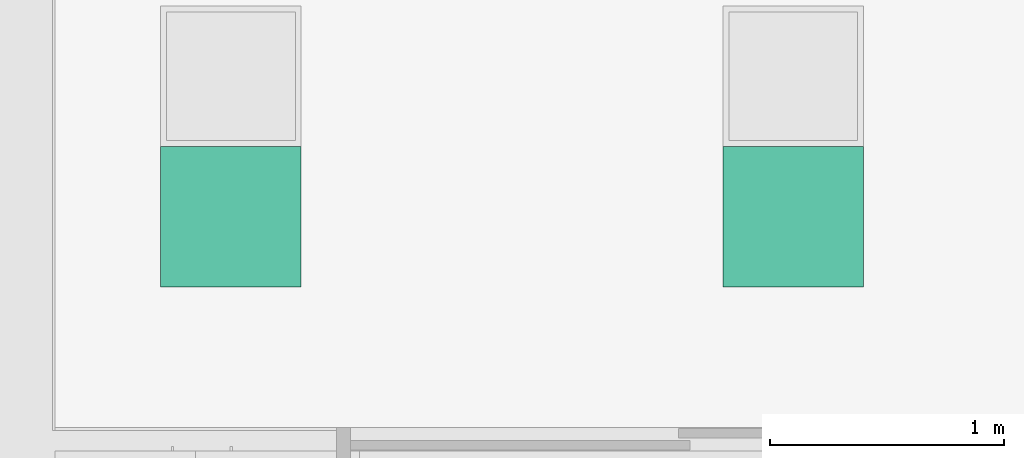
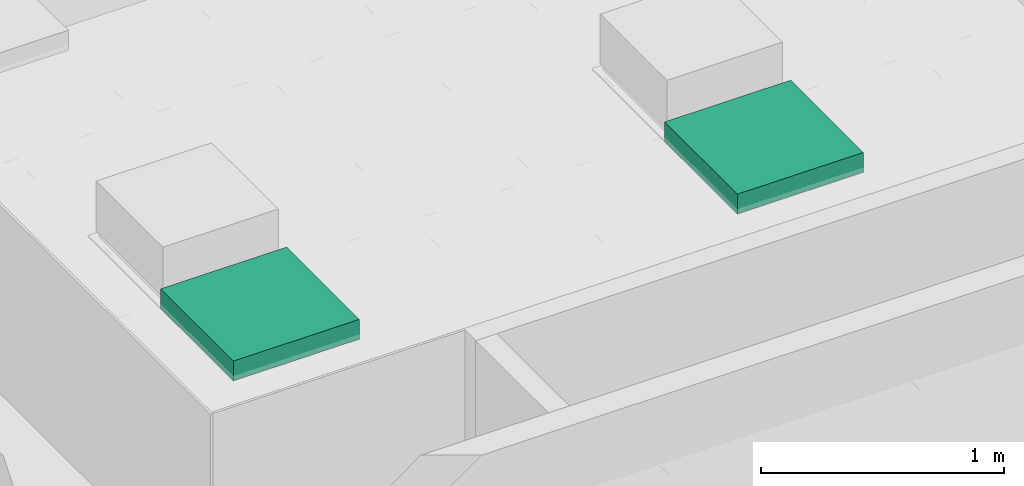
# One storey, part 266 of 347: 2 flow terminals.
"""IFC2X3 building model written with IfcOpenShell, lengths in millimetres."""

from ifc_helpers import new_model, entity, si_unit, converted_unit, derived_unit, money_unit, direction, frame, origin_with_axes, place, context, subcontext, project, spatial, open_shell, faceted_brep, surface_model, source, transform, mapped, type_object, type_shapes, element, save


model = new_model("IFC2X3")

# Units and contexts
model_context = context("Model", 3, precision=0.01, world=origin_with_axes(), true_north=direction((0.0, 1.0)))
plan_context = context("Plan", 3, precision=0.01, world=origin_with_axes(), true_north=direction((0.0, 1.0)))
body_context = subcontext(model_context, "Body", "Model", "MODEL_VIEW")
ifc_project = project(units=[si_unit("LENGTHUNIT", "METRE", prefix="MILLI"), si_unit("AREAUNIT", "SQUARE_METRE"), si_unit("VOLUMEUNIT", "CUBIC_METRE"), converted_unit("PLANEANGLEUNIT", "DEGREE", entity("IfcPlaneAngleMeasure", 0.0174532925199), si_unit("PLANEANGLEUNIT", "RADIAN"), dimensions=[0, 0, 0, 0, 0, 0, 0]), money_unit("EUR"), converted_unit("TIMEUNIT", "Year", entity("IfcTimeMeasure", 31556926.0), si_unit("TIMEUNIT", "SECOND"), dimensions=[0, 0, 1, 0, 0, 0, 0]), si_unit("MASSUNIT", "GRAM", prefix="KILO"), si_unit("THERMODYNAMICTEMPERATUREUNIT", "DEGREE_CELSIUS"), si_unit("LUMINOUSINTENSITYUNIT", "LUMEN"), si_unit("ENERGYUNIT", "JOULE", prefix="MEGA"), derived_unit("THERMALCONDUCTANCEUNIT", [(si_unit("POWERUNIT", "WATT"), 1), (si_unit("LENGTHUNIT", "METRE"), -1), (si_unit("THERMODYNAMICTEMPERATUREUNIT", "KELVIN"), -1)]), derived_unit("SPECIFICHEATCAPACITYUNIT", [(si_unit("ENERGYUNIT", "JOULE"), 1), (si_unit("MASSUNIT", "GRAM", prefix="KILO"), -1), (si_unit("THERMODYNAMICTEMPERATUREUNIT", "KELVIN"), -1)]), derived_unit("MASSDENSITYUNIT", [(si_unit("MASSUNIT", "GRAM", prefix="KILO"), 1), (si_unit("VOLUMEUNIT", "CUBIC_METRE"), -1)])], contexts=[model_context, plan_context])

# Site, building, storey
site_placement = place(None, origin_with_axes())
site = spatial("IfcSite", under=ifc_project, at=site_placement, Name="Site", CompositionType="ELEMENT")
building_placement = place(site_placement, origin_with_axes())
building = spatial("IfcBuilding", under=site, at=building_placement, Name="Naam gebouw", CompositionType="ELEMENT")
storey_placement = place(building_placement, origin_with_axes())
storey = spatial("IfcBuildingStorey", under=building, at=storey_placement, Name="begane grond", CompositionType="ELEMENT", Elevation=0.0)

# Flow terminals
lamp_type = type_object("IfcLampType", Name="TL plafond 25", PredefinedType="NOTDEFINED")
shared_shape = source(origin_with_axes(), body_context, "Body", "SurfaceModel", [
    faceted_brep([(0.0, 0.0, -100.0), (600.0, 0.0, -100.0), (600.0, 0.0, 0.0), (0.0, 0.0, 0.0), (0.0, 600.0, -100.0), (600.0, 600.0, -100.0), (40.0, 40.0, -100.0), (560.0, 40.0, -100.0), (560.0, 560.0, -100.0), (40.0, 560.0, -100.0), (600.0, 600.0, 0.0), (0.0, 600.0, 0.0), (40.0, 40.0, 0.0), (40.0, 560.0, 0.0), (560.0, 560.0, 0.0), (560.0, 40.0, 0.0)], [[[0, 1, 2, 3]], [[0, 4, 5, 1], [6, 7, 8, 9]], [[1, 5, 10, 2]], [[3, 2, 10, 11], [12, 13, 14, 15]], [[4, 0, 3, 11]], [[5, 4, 11, 10]], [[7, 6, 12, 15]], [[8, 7, 15, 14]], [[9, 8, 14, 13]], [[6, 9, 13, 12]]]),
    faceted_brep([(40.0, 40.0, -16.3333333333), (560.0, 40.0, -16.3333333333), (560.0, 40.0, 0.0), (40.0, 40.0, 0.0), (40.0, 560.0, -16.3333333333), (560.0, 560.0, -16.3333333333), (560.0, 560.0, 0.0), (40.0, 560.0, 0.0)], [[[0, 1, 2, 3]], [[0, 4, 5, 1]], [[1, 5, 6, 2]], [[3, 2, 6, 7]], [[4, 0, 3, 7]], [[5, 4, 7, 6]]]),
    surface_model("IfcShellBasedSurfaceModel", [(559.0, 41.0, -100.0), (40.0, 41.0, -100.0), (40.0, 559.0, -100.0), (559.0, 559.0, -100.0)], [open_shell([[[0, 1, 2, 3]]])]),
    faceted_brep([(40.0, 40.0, -100.0), (560.0, 40.0, -100.0), (560.0, 40.0, -60.0), (40.0, 40.0, -60.0), (40.0, 560.0, -100.0), (560.0, 560.0, -100.0), (41.0, 41.0, -100.0), (559.0, 41.0, -100.0), (559.0, 559.0, -100.0), (41.0, 559.0, -100.0), (560.0, 560.0, -60.0), (40.0, 560.0, -60.0), (41.0, 41.0, -60.0), (41.0, 559.0, -60.0), (559.0, 559.0, -60.0), (559.0, 41.0, -60.0)], [[[0, 1, 2, 3]], [[0, 4, 5, 1], [6, 7, 8, 9]], [[1, 5, 10, 2]], [[3, 2, 10, 11], [12, 13, 14, 15]], [[4, 0, 3, 11]], [[5, 4, 11, 10]], [[7, 6, 12, 15]], [[8, 7, 15, 14]], [[9, 8, 14, 13]], [[6, 9, 13, 12]]]),
    faceted_brep([(40.0, 144.0, -48.3333333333), (40.0, 149.740251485, -47.191526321), (560.0, 149.740251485, -47.191526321), (560.0, 144.0, -48.3333333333), (40.0, 138.259748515, -47.191526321), (40.0, 133.393398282, -43.9399350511), (40.0, 130.141807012, -39.0735848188), (40.0, 129.0, -33.3333333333), (40.0, 130.141807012, -27.5930818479), (40.0, 133.393398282, -22.7267316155), (40.0, 138.259748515, -19.4751403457), (40.0, 144.0, -18.3333333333), (40.0, 149.740251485, -19.4751403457), (40.0, 154.606601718, -22.7267316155), (40.0, 157.858192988, -27.5930818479), (40.0, 159.0, -33.3333333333), (40.0, 157.858192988, -39.0735848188), (40.0, 154.606601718, -43.9399350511), (40.0, 144.0, -46.3333333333), (40.0, 148.974884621, -45.343767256), (40.0, 153.192388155, -42.5257214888), (40.0, 156.010433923, -38.3082179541), (40.0, 157.0, -33.3333333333), (40.0, 156.010433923, -28.3584487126), (40.0, 153.192388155, -24.1409451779), (40.0, 148.974884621, -21.3228994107), (40.0, 144.0, -20.3333333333), (40.0, 139.025115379, -21.3228994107), (40.0, 134.807611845, -24.1409451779), (40.0, 131.989566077, -28.3584487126), (40.0, 131.0, -33.3333333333), (40.0, 131.989566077, -38.3082179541), (40.0, 134.807611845, -42.5257214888), (40.0, 139.025115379, -45.343767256), (560.0, 154.606601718, -43.9399350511), (560.0, 157.858192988, -39.0735848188), (560.0, 159.0, -33.3333333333), (560.0, 157.858192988, -27.5930818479), (560.0, 154.606601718, -22.7267316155), (560.0, 149.740251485, -19.4751403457), (560.0, 144.0, -18.3333333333), (560.0, 138.259748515, -19.4751403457), (560.0, 133.393398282, -22.7267316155), (560.0, 130.141807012, -27.5930818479), (560.0, 129.0, -33.3333333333), (560.0, 130.141807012, -39.0735848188), (560.0, 133.393398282, -43.9399350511), (560.0, 138.259748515, -47.191526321), (560.0, 144.0, -46.3333333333), (560.0, 139.025115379, -45.343767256), (560.0, 134.807611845, -42.5257214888), (560.0, 131.989566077, -38.3082179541), (560.0, 131.0, -33.3333333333), (560.0, 131.989566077, -28.3584487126), (560.0, 134.807611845, -24.1409451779), (560.0, 139.025115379, -21.3228994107), (560.0, 144.0, -20.3333333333), (560.0, 148.974884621, -21.3228994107), (560.0, 153.192388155, -24.1409451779), (560.0, 156.010433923, -28.3584487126), (560.0, 157.0, -33.3333333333), (560.0, 156.010433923, -38.3082179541), (560.0, 153.192388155, -42.5257214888), (560.0, 148.974884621, -45.343767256)], [[[0, 1, 2, 3]], [[0, 4, 5, 6, 7, 8, 9, 10, 11, 12, 13, 14, 15, 16, 17, 1], [18, 19, 20, 21, 22, 23, 24, 25, 26, 27, 28, 29, 30, 31, 32, 33]], [[1, 17, 34, 2]], [[3, 2, 34, 35, 36, 37, 38, 39, 40, 41, 42, 43, 44, 45, 46, 47], [48, 49, 50, 51, 52, 53, 54, 55, 56, 57, 58, 59, 60, 61, 62, 63]], [[4, 0, 3, 47]], [[5, 4, 47, 46]], [[6, 5, 46, 45]], [[7, 6, 45, 44]], [[8, 7, 44, 43]], [[9, 8, 43, 42]], [[10, 9, 42, 41]], [[11, 10, 41, 40]], [[12, 11, 40, 39]], [[13, 12, 39, 38]], [[14, 13, 38, 37]], [[15, 14, 37, 36]], [[16, 15, 36, 35]], [[17, 16, 35, 34]], [[19, 18, 48, 63]], [[20, 19, 63, 62]], [[21, 20, 62, 61]], [[22, 21, 61, 60]], [[23, 22, 60, 59]], [[24, 23, 59, 58]], [[25, 24, 58, 57]], [[26, 25, 57, 56]], [[27, 26, 56, 55]], [[28, 27, 55, 54]], [[29, 28, 54, 53]], [[30, 29, 53, 52]], [[31, 30, 52, 51]], [[32, 31, 51, 50]], [[33, 32, 50, 49]], [[18, 33, 49, 48]]]),
    faceted_brep([(40.0, 248.0, -48.3333333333), (40.0, 253.740251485, -47.191526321), (560.0, 253.740251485, -47.191526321), (560.0, 248.0, -48.3333333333), (40.0, 242.259748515, -47.191526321), (40.0, 237.393398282, -43.9399350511), (40.0, 234.141807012, -39.0735848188), (40.0, 233.0, -33.3333333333), (40.0, 234.141807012, -27.5930818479), (40.0, 237.393398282, -22.7267316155), (40.0, 242.259748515, -19.4751403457), (40.0, 248.0, -18.3333333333), (40.0, 253.740251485, -19.4751403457), (40.0, 258.606601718, -22.7267316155), (40.0, 261.858192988, -27.5930818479), (40.0, 263.0, -33.3333333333), (40.0, 261.858192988, -39.0735848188), (40.0, 258.606601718, -43.9399350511), (40.0, 248.0, -46.3333333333), (40.0, 252.974884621, -45.343767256), (40.0, 257.192388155, -42.5257214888), (40.0, 260.010433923, -38.3082179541), (40.0, 261.0, -33.3333333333), (40.0, 260.010433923, -28.3584487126), (40.0, 257.192388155, -24.1409451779), (40.0, 252.974884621, -21.3228994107), (40.0, 248.0, -20.3333333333), (40.0, 243.025115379, -21.3228994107), (40.0, 238.807611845, -24.1409451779), (40.0, 235.989566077, -28.3584487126), (40.0, 235.0, -33.3333333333), (40.0, 235.989566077, -38.3082179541), (40.0, 238.807611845, -42.5257214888), (40.0, 243.025115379, -45.343767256), (560.0, 258.606601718, -43.9399350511), (560.0, 261.858192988, -39.0735848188), (560.0, 263.0, -33.3333333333), (560.0, 261.858192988, -27.5930818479), (560.0, 258.606601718, -22.7267316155), (560.0, 253.740251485, -19.4751403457), (560.0, 248.0, -18.3333333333), (560.0, 242.259748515, -19.4751403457), (560.0, 237.393398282, -22.7267316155), (560.0, 234.141807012, -27.5930818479), (560.0, 233.0, -33.3333333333), (560.0, 234.141807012, -39.0735848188), (560.0, 237.393398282, -43.9399350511), (560.0, 242.259748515, -47.191526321), (560.0, 248.0, -46.3333333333), (560.0, 243.025115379, -45.343767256), (560.0, 238.807611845, -42.5257214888), (560.0, 235.989566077, -38.3082179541), (560.0, 235.0, -33.3333333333), (560.0, 235.989566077, -28.3584487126), (560.0, 238.807611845, -24.1409451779), (560.0, 243.025115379, -21.3228994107), (560.0, 248.0, -20.3333333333), (560.0, 252.974884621, -21.3228994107), (560.0, 257.192388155, -24.1409451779), (560.0, 260.010433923, -28.3584487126), (560.0, 261.0, -33.3333333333), (560.0, 260.010433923, -38.3082179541), (560.0, 257.192388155, -42.5257214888), (560.0, 252.974884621, -45.343767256)], [[[0, 1, 2, 3]], [[0, 4, 5, 6, 7, 8, 9, 10, 11, 12, 13, 14, 15, 16, 17, 1], [18, 19, 20, 21, 22, 23, 24, 25, 26, 27, 28, 29, 30, 31, 32, 33]], [[1, 17, 34, 2]], [[3, 2, 34, 35, 36, 37, 38, 39, 40, 41, 42, 43, 44, 45, 46, 47], [48, 49, 50, 51, 52, 53, 54, 55, 56, 57, 58, 59, 60, 61, 62, 63]], [[4, 0, 3, 47]], [[5, 4, 47, 46]], [[6, 5, 46, 45]], [[7, 6, 45, 44]], [[8, 7, 44, 43]], [[9, 8, 43, 42]], [[10, 9, 42, 41]], [[11, 10, 41, 40]], [[12, 11, 40, 39]], [[13, 12, 39, 38]], [[14, 13, 38, 37]], [[15, 14, 37, 36]], [[16, 15, 36, 35]], [[17, 16, 35, 34]], [[19, 18, 48, 63]], [[20, 19, 63, 62]], [[21, 20, 62, 61]], [[22, 21, 61, 60]], [[23, 22, 60, 59]], [[24, 23, 59, 58]], [[25, 24, 58, 57]], [[26, 25, 57, 56]], [[27, 26, 56, 55]], [[28, 27, 55, 54]], [[29, 28, 54, 53]], [[30, 29, 53, 52]], [[31, 30, 52, 51]], [[32, 31, 51, 50]], [[33, 32, 50, 49]], [[18, 33, 49, 48]]]),
    faceted_brep([(40.0, 352.0, -48.3333333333), (40.0, 357.740251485, -47.191526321), (560.0, 357.740251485, -47.191526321), (560.0, 352.0, -48.3333333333), (40.0, 346.259748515, -47.191526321), (40.0, 341.393398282, -43.9399350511), (40.0, 338.141807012, -39.0735848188), (40.0, 337.0, -33.3333333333), (40.0, 338.141807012, -27.5930818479), (40.0, 341.393398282, -22.7267316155), (40.0, 346.259748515, -19.4751403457), (40.0, 352.0, -18.3333333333), (40.0, 357.740251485, -19.4751403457), (40.0, 362.606601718, -22.7267316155), (40.0, 365.858192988, -27.5930818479), (40.0, 367.0, -33.3333333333), (40.0, 365.858192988, -39.0735848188), (40.0, 362.606601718, -43.9399350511), (40.0, 352.0, -46.3333333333), (40.0, 356.974884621, -45.343767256), (40.0, 361.192388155, -42.5257214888), (40.0, 364.010433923, -38.3082179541), (40.0, 365.0, -33.3333333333), (40.0, 364.010433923, -28.3584487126), (40.0, 361.192388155, -24.1409451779), (40.0, 356.974884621, -21.3228994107), (40.0, 352.0, -20.3333333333), (40.0, 347.025115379, -21.3228994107), (40.0, 342.807611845, -24.1409451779), (40.0, 339.989566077, -28.3584487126), (40.0, 339.0, -33.3333333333), (40.0, 339.989566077, -38.3082179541), (40.0, 342.807611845, -42.5257214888), (40.0, 347.025115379, -45.343767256), (560.0, 362.606601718, -43.9399350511), (560.0, 365.858192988, -39.0735848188), (560.0, 367.0, -33.3333333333), (560.0, 365.858192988, -27.5930818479), (560.0, 362.606601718, -22.7267316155), (560.0, 357.740251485, -19.4751403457), (560.0, 352.0, -18.3333333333), (560.0, 346.259748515, -19.4751403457), (560.0, 341.393398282, -22.7267316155), (560.0, 338.141807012, -27.5930818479), (560.0, 337.0, -33.3333333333), (560.0, 338.141807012, -39.0735848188), (560.0, 341.393398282, -43.9399350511), (560.0, 346.259748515, -47.191526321), (560.0, 352.0, -46.3333333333), (560.0, 347.025115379, -45.343767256), (560.0, 342.807611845, -42.5257214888), (560.0, 339.989566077, -38.3082179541), (560.0, 339.0, -33.3333333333), (560.0, 339.989566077, -28.3584487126), (560.0, 342.807611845, -24.1409451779), (560.0, 347.025115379, -21.3228994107), (560.0, 352.0, -20.3333333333), (560.0, 356.974884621, -21.3228994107), (560.0, 361.192388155, -24.1409451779), (560.0, 364.010433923, -28.3584487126), (560.0, 365.0, -33.3333333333), (560.0, 364.010433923, -38.3082179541), (560.0, 361.192388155, -42.5257214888), (560.0, 356.974884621, -45.343767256)], [[[0, 1, 2, 3]], [[0, 4, 5, 6, 7, 8, 9, 10, 11, 12, 13, 14, 15, 16, 17, 1], [18, 19, 20, 21, 22, 23, 24, 25, 26, 27, 28, 29, 30, 31, 32, 33]], [[1, 17, 34, 2]], [[3, 2, 34, 35, 36, 37, 38, 39, 40, 41, 42, 43, 44, 45, 46, 47], [48, 49, 50, 51, 52, 53, 54, 55, 56, 57, 58, 59, 60, 61, 62, 63]], [[4, 0, 3, 47]], [[5, 4, 47, 46]], [[6, 5, 46, 45]], [[7, 6, 45, 44]], [[8, 7, 44, 43]], [[9, 8, 43, 42]], [[10, 9, 42, 41]], [[11, 10, 41, 40]], [[12, 11, 40, 39]], [[13, 12, 39, 38]], [[14, 13, 38, 37]], [[15, 14, 37, 36]], [[16, 15, 36, 35]], [[17, 16, 35, 34]], [[19, 18, 48, 63]], [[20, 19, 63, 62]], [[21, 20, 62, 61]], [[22, 21, 61, 60]], [[23, 22, 60, 59]], [[24, 23, 59, 58]], [[25, 24, 58, 57]], [[26, 25, 57, 56]], [[27, 26, 56, 55]], [[28, 27, 55, 54]], [[29, 28, 54, 53]], [[30, 29, 53, 52]], [[31, 30, 52, 51]], [[32, 31, 51, 50]], [[33, 32, 50, 49]], [[18, 33, 49, 48]]]),
    faceted_brep([(40.0, 456.0, -48.3333333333), (40.0, 461.740251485, -47.191526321), (560.0, 461.740251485, -47.191526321), (560.0, 456.0, -48.3333333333), (40.0, 450.259748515, -47.191526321), (40.0, 445.393398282, -43.9399350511), (40.0, 442.141807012, -39.0735848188), (40.0, 441.0, -33.3333333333), (40.0, 442.141807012, -27.5930818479), (40.0, 445.393398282, -22.7267316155), (40.0, 450.259748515, -19.4751403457), (40.0, 456.0, -18.3333333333), (40.0, 461.740251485, -19.4751403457), (40.0, 466.606601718, -22.7267316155), (40.0, 469.858192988, -27.5930818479), (40.0, 471.0, -33.3333333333), (40.0, 469.858192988, -39.0735848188), (40.0, 466.606601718, -43.9399350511), (40.0, 456.0, -46.3333333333), (40.0, 460.974884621, -45.343767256), (40.0, 465.192388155, -42.5257214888), (40.0, 468.010433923, -38.3082179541), (40.0, 469.0, -33.3333333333), (40.0, 468.010433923, -28.3584487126), (40.0, 465.192388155, -24.1409451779), (40.0, 460.974884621, -21.3228994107), (40.0, 456.0, -20.3333333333), (40.0, 451.025115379, -21.3228994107), (40.0, 446.807611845, -24.1409451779), (40.0, 443.989566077, -28.3584487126), (40.0, 443.0, -33.3333333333), (40.0, 443.989566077, -38.3082179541), (40.0, 446.807611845, -42.5257214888), (40.0, 451.025115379, -45.343767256), (560.0, 466.606601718, -43.9399350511), (560.0, 469.858192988, -39.0735848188), (560.0, 471.0, -33.3333333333), (560.0, 469.858192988, -27.5930818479), (560.0, 466.606601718, -22.7267316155), (560.0, 461.740251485, -19.4751403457), (560.0, 456.0, -18.3333333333), (560.0, 450.259748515, -19.4751403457), (560.0, 445.393398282, -22.7267316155), (560.0, 442.141807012, -27.5930818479), (560.0, 441.0, -33.3333333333), (560.0, 442.141807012, -39.0735848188), (560.0, 445.393398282, -43.9399350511), (560.0, 450.259748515, -47.191526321), (560.0, 456.0, -46.3333333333), (560.0, 451.025115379, -45.343767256), (560.0, 446.807611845, -42.5257214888), (560.0, 443.989566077, -38.3082179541), (560.0, 443.0, -33.3333333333), (560.0, 443.989566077, -28.3584487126), (560.0, 446.807611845, -24.1409451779), (560.0, 451.025115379, -21.3228994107), (560.0, 456.0, -20.3333333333), (560.0, 460.974884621, -21.3228994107), (560.0, 465.192388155, -24.1409451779), (560.0, 468.010433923, -28.3584487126), (560.0, 469.0, -33.3333333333), (560.0, 468.010433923, -38.3082179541), (560.0, 465.192388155, -42.5257214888), (560.0, 460.974884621, -45.343767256)], [[[0, 1, 2, 3]], [[0, 4, 5, 6, 7, 8, 9, 10, 11, 12, 13, 14, 15, 16, 17, 1], [18, 19, 20, 21, 22, 23, 24, 25, 26, 27, 28, 29, 30, 31, 32, 33]], [[1, 17, 34, 2]], [[3, 2, 34, 35, 36, 37, 38, 39, 40, 41, 42, 43, 44, 45, 46, 47], [48, 49, 50, 51, 52, 53, 54, 55, 56, 57, 58, 59, 60, 61, 62, 63]], [[4, 0, 3, 47]], [[5, 4, 47, 46]], [[6, 5, 46, 45]], [[7, 6, 45, 44]], [[8, 7, 44, 43]], [[9, 8, 43, 42]], [[10, 9, 42, 41]], [[11, 10, 41, 40]], [[12, 11, 40, 39]], [[13, 12, 39, 38]], [[14, 13, 38, 37]], [[15, 14, 37, 36]], [[16, 15, 36, 35]], [[17, 16, 35, 34]], [[19, 18, 48, 63]], [[20, 19, 63, 62]], [[21, 20, 62, 61]], [[22, 21, 61, 60]], [[23, 22, 60, 59]], [[24, 23, 59, 58]], [[25, 24, 58, 57]], [[26, 25, 57, 56]], [[27, 26, 56, 55]], [[28, 27, 55, 54]], [[29, 28, 54, 53]], [[30, 29, 53, 52]], [[31, 30, 52, 51]], [[32, 31, 51, 50]], [[33, 32, 50, 49]], [[18, 33, 49, 48]]]),
])
type_shapes(lamp_type, [shared_shape])
for number, where, z_axis, x_axis, name in (
    (1, (51825.0, 29337.5, 3295.0), (0.0, 0.0, 1.0), (1.0, 0.0, 0.0), "63_Lamp-x"),
    (2, (49425.0, 29337.5, 3295.0), (0.0, 0.0, 1.0), (1.0, 0.0, 0.0), "63_Lamp-x"),
):
    element("IfcFlowTerminal", number, at=place(storey_placement, frame(where, z_axis=z_axis, x_axis=x_axis)), inside=storey, type_object=lamp_type, Name=name, ObjectType="Lamp", context=body_context, shape_type="MappedRepresentation", body=[
        mapped(shared_shape, transform((0.0, 0.0, 0.0))),
    ])

save(model, "model.ifc")
